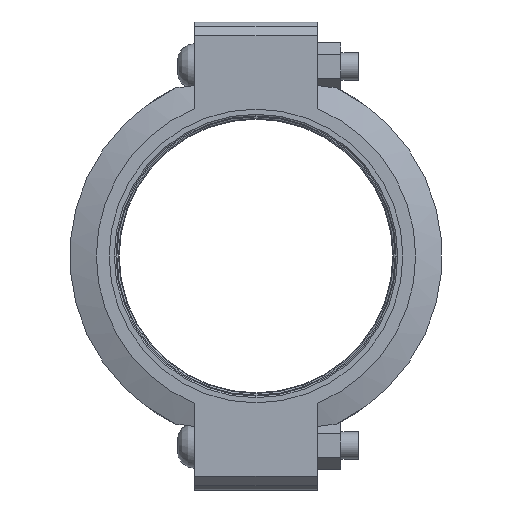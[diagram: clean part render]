
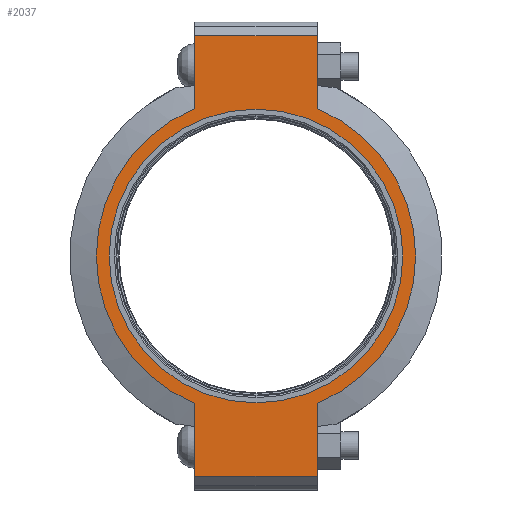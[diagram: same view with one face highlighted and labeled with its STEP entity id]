
A CAD part, left-side view. The second image highlights one B-rep face of the part: STEP entity #2037.
In plain terms, the highlighted planar face has unit normal (-1, 0, 0) as drawn and (0, 0, 1) by its records, which use the part's own axes.
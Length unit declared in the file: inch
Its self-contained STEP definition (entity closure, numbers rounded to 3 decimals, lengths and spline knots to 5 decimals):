
#146=LINE('',#3584,#239);
#157=LINE('',#3635,#250);
#163=LINE('',#3661,#256);
#165=LINE('',#3664,#258);
#166=LINE('',#3669,#259);
#167=LINE('',#3670,#260);
#239=VECTOR('',#2923,0.3937);
#250=VECTOR('',#2954,0.3937);
#256=VECTOR('',#2972,0.3937);
#258=VECTOR('',#2976,0.3937);
#259=VECTOR('',#2981,0.3937);
#260=VECTOR('',#2982,0.3937);
#323=FACE_BOUND('',#576,.T.);
#366=PLANE('',#2383);
#453=FACE_OUTER_BOUND('',#575,.T.);
#575=EDGE_LOOP('',(#1710,#1711,#1712,#1713,#1714,#1715,#1716,#1717));
#576=EDGE_LOOP('',(#1718));
#760=CIRCLE('',#2384,5.845);
#761=CIRCLE('',#2385,5.845);
#762=CIRCLE('',#2386,5.375);
#932=VERTEX_POINT('',#3581);
#933=VERTEX_POINT('',#3583);
#950=VERTEX_POINT('',#3630);
#951=VERTEX_POINT('',#3634);
#958=VERTEX_POINT('',#3656);
#959=VERTEX_POINT('',#3660);
#960=VERTEX_POINT('',#3666);
#961=VERTEX_POINT('',#3668);
#962=VERTEX_POINT('',#3672);
#1187=EDGE_CURVE('',#933,#932,#146,.T.);
#1208=EDGE_CURVE('',#951,#950,#157,.T.);
#1219=EDGE_CURVE('',#959,#958,#163,.T.);
#1221=EDGE_CURVE('',#959,#932,#165,.T.);
#1222=EDGE_CURVE('',#958,#960,#760,.T.);
#1223=EDGE_CURVE('',#960,#961,#166,.T.);
#1224=EDGE_CURVE('',#951,#961,#167,.T.);
#1225=EDGE_CURVE('',#950,#933,#761,.T.);
#1226=EDGE_CURVE('',#962,#962,#762,.T.);
#1710=ORIENTED_EDGE('',*,*,#1221,.F.);
#1711=ORIENTED_EDGE('',*,*,#1219,.T.);
#1712=ORIENTED_EDGE('',*,*,#1222,.T.);
#1713=ORIENTED_EDGE('',*,*,#1223,.T.);
#1714=ORIENTED_EDGE('',*,*,#1224,.F.);
#1715=ORIENTED_EDGE('',*,*,#1208,.T.);
#1716=ORIENTED_EDGE('',*,*,#1225,.T.);
#1717=ORIENTED_EDGE('',*,*,#1187,.T.);
#1718=ORIENTED_EDGE('',*,*,#1226,.T.);
#2037=ADVANCED_FACE('',(#453,#323),#366,.T.);
#2383=AXIS2_PLACEMENT_3D('',#3665,#2977,#2978);
#2384=AXIS2_PLACEMENT_3D('',#3667,#2979,#2980);
#2385=AXIS2_PLACEMENT_3D('',#3671,#2983,#2984);
#2386=AXIS2_PLACEMENT_3D('',#3673,#2985,#2986);
#2923=DIRECTION('',(1.,0.,0.));
#2954=DIRECTION('',(1.,0.,0.));
#2972=DIRECTION('',(-1.,0.,0.));
#2976=DIRECTION('',(0.,-1.,0.));
#2977=DIRECTION('center_axis',(0.,0.,1.));
#2978=DIRECTION('ref_axis',(-1.,0.,0.));
#2979=DIRECTION('center_axis',(0.,0.,1.));
#2980=DIRECTION('ref_axis',(1.,0.,0.));
#2981=DIRECTION('',(-1.,0.,0.));
#2982=DIRECTION('',(0.,1.,0.));
#2983=DIRECTION('center_axis',(0.,0.,1.));
#2984=DIRECTION('ref_axis',(1.,0.,0.));
#2985=DIRECTION('center_axis',(0.,0.,-1.));
#2986=DIRECTION('ref_axis',(1.,0.,0.));
#3581=CARTESIAN_POINT('',(8.065,-2.25,1.315));
#3583=CARTESIAN_POINT('',(5.39458,-2.25,1.315));
#3584=CARTESIAN_POINT('',(-8.565,-2.25,1.315));
#3630=CARTESIAN_POINT('',(-5.39458,-2.25,1.315));
#3634=CARTESIAN_POINT('',(-8.065,-2.25,1.315));
#3635=CARTESIAN_POINT('',(-8.565,-2.25,1.315));
#3656=CARTESIAN_POINT('',(5.39458,2.25,1.315));
#3660=CARTESIAN_POINT('',(8.065,2.25,1.315));
#3661=CARTESIAN_POINT('',(8.565,2.25,1.315));
#3664=CARTESIAN_POINT('',(8.065,-1.125,1.315));
#3665=CARTESIAN_POINT('Origin',(0.,0.,
1.315));
#3666=CARTESIAN_POINT('',(-5.39458,2.25,1.315));
#3667=CARTESIAN_POINT('Origin',(0.,0.,1.315));
#3668=CARTESIAN_POINT('',(-8.065,2.25,1.315));
#3669=CARTESIAN_POINT('',(8.565,2.25,1.315));
#3670=CARTESIAN_POINT('',(-8.065,1.125,1.315));
#3671=CARTESIAN_POINT('Origin',(0.,0.,1.315));
#3672=CARTESIAN_POINT('',(-5.375,0.,1.315));
#3673=CARTESIAN_POINT('Origin',(0.,0.,1.315));
